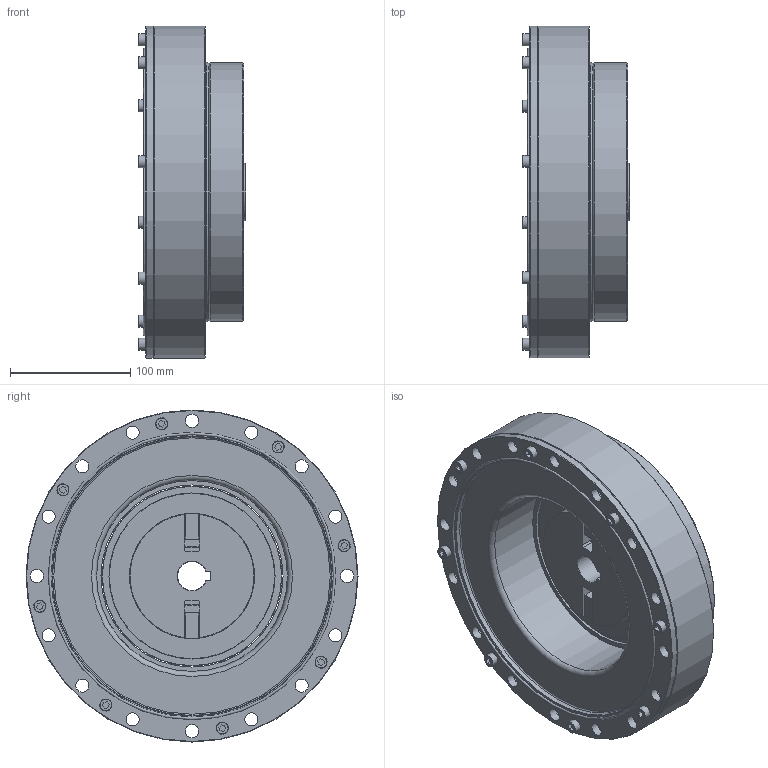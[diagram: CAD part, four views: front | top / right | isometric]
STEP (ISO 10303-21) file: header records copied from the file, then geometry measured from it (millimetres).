
FILE_DESCRIPTION (( 'STEP AP203' ), '1' );
FILE_NAME ('FHG-65-XXX-SO.STEP', '2025-06-24T01:24:45', ( '微软用户' ), ( '微软中国' ), 'SwSTEP 2.0', 'SolidWorks 2016', '' );
FILE_SCHEMA (( 'CONFIG_CONTROL_DESIGN' ));
Length unit declared in the file: millimetre
Products named in the file (1): FHG-65-XXX-SO
Bounding box: 89 x 276 x 276 mm (x, y, z)
Volume: 2379063.8 mm3; surface area: 745676.1 mm2
Topology: 58 solids, 58 shells, 815 faces, 1946 edges, 1253 vertices
Faces by surface type: plane 361, cylinder 264, cone 115, torus 48, sphere 23, bspline 4
Full cylindrical faces by diameter (mm): 3 x2, 5 x16, 6 x16, 6.6 x16, 8.5 x16, 10 x16, 11 x56, 45.5 x1, 48 x3, 49 x3, 60 x1, 68 x1, 104 x2, 117.9 x1, 126.1 x2, 129 x1, 138 x1, 149 x1, 151.4 x2, 159.3 x1, 159.312 x1, 161.588 x1, 163.41 x1, 166.149 x1, 168.5 x1, 175 x3, 180.4 x2, 195.322 x1, 215 x1, 216 x4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
Entity records: 24194 total; most frequent: CARTESIAN_POINT 6727, DIRECTION 3762, ORIENTED_EDGE 2956, AXIS2_PLACEMENT_3D 1572, EDGE_CURVE 1478, EDGE_LOOP 1326, VERTEX_POINT 1132, FACE_OUTER_BOUND 1021
